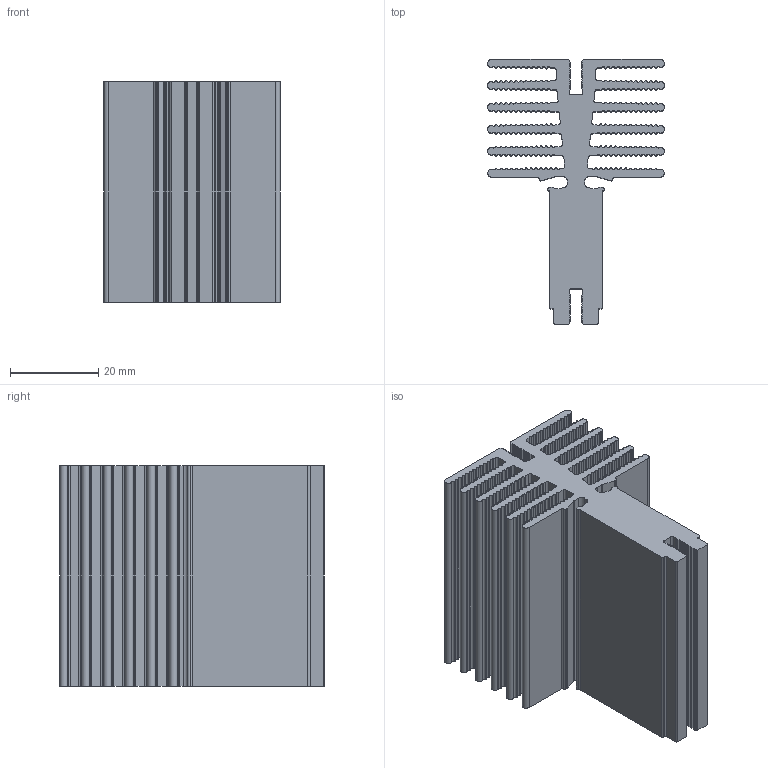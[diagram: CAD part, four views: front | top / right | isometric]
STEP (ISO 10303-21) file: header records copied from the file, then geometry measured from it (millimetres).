
FILE_DESCRIPTION(/* description */ (''),/* implementation_level */ '2;1');
FILE_NAME(/* name */ 'C:\Users\lochen\Desktop\SK664.stp',/* time_stamp */ '2020-06-25T10:11:55+02:00',/* author */ ('Lochen'),/* organization */ (''),/* preprocessor_version */ 'ST-DEVELOPER v18',/* originating_system */ 'Autodesk Inventor 2020',/* authorisation */ '');
FILE_SCHEMA (('AUTOMOTIVE_DESIGN { 1 0 10303 214 3 1 1 }'));
Length unit declared in the file: millimetre
Products named in the file (1): 1034165_IPT_000
Bounding box: 40 x 60 x 50 mm (x, y, z)
Volume: 44064.8 mm3; surface area: 34755.7 mm2
Topology: 1 solids, 1 shells, 870 faces, 2604 edges, 1736 vertices
Faces by surface type: cylinder 694, plane 176
Entity records: 30097 total; most frequent: DIRECTION 5734, CARTESIAN_POINT 5211, ORIENTED_EDGE 5208, EDGE_CURVE 2604, AXIS2_PLACEMENT_3D 2259, VERTEX_POINT 1736, CIRCLE 1388, LINE 1216
